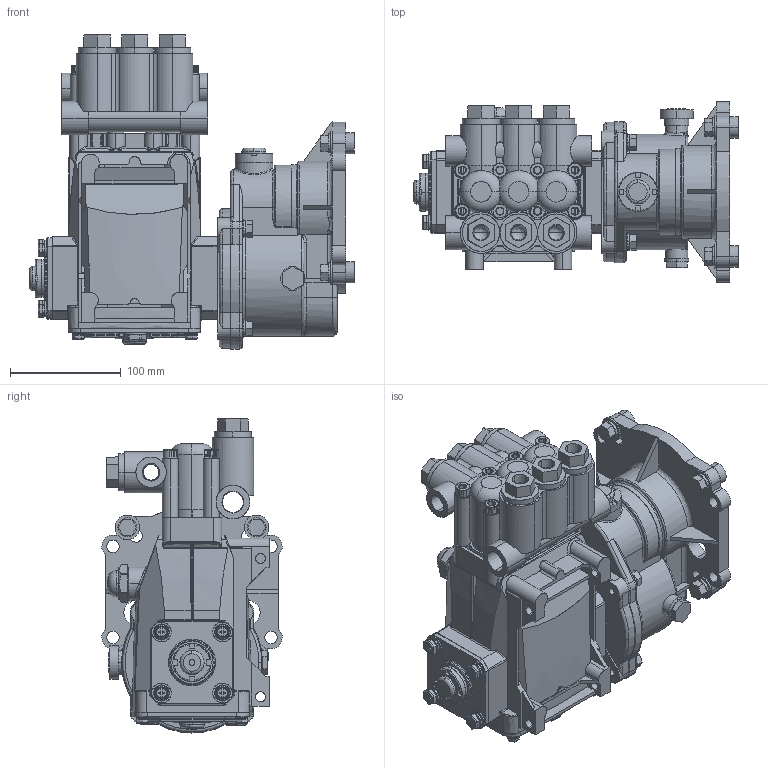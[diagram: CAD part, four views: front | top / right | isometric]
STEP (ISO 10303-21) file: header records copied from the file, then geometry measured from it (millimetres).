
FILE_DESCRIPTION (( 'STEP AP214' ), '1' );
FILE_NAME ('5CP5135CSSG1.STEP', '2017-09-27T11:38:28', ( '' ), ( '' ), 'SwSTEP 2.0', 'SolidWorks 2017', '' );
FILE_SCHEMA (( 'AUTOMOTIVE_DESIGN' ));
Length unit declared in the file: millimetre
Products named in the file (1): 5CP5135CSSG1
Bounding box: 293.67 x 163.04 x 284.01 mm (x, y, z)
Surface area: 373376.6 mm2 (no closed solid volume)
Topology: 0 solids, 1440 shells, 2111 faces, 9734 edges, 9053 vertices
Faces by surface type: plane 880, cylinder 848, bspline 223, torus 85, cone 73, sphere 2
Entity records: 173722 total; most frequent: CARTESIAN_POINT 96490, DIRECTION 12825, ORIENTED_EDGE 11224, EDGE_CURVE 9700, VERTEX_POINT 9052, VECTOR 4663, LINE 4663, AXIS2_PLACEMENT_3D 4081
